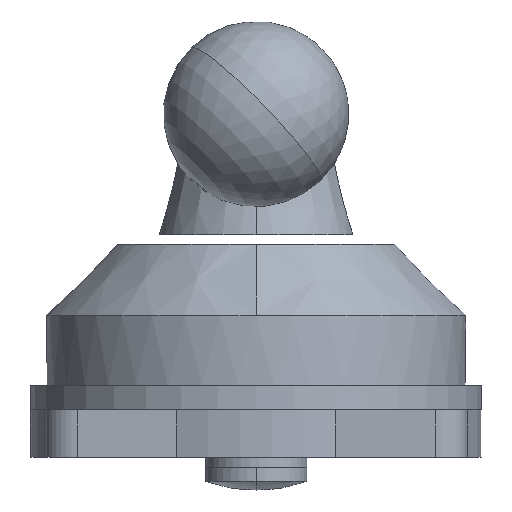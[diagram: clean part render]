
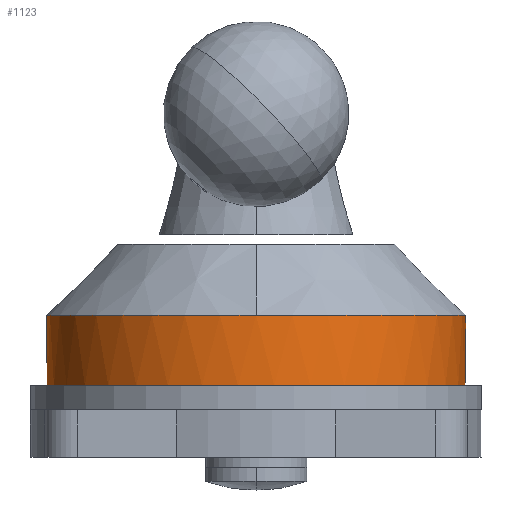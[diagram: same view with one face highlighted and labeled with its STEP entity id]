
A CAD part, front view. The second image highlights one B-rep face of the part: STEP entity #1123.
In plain terms, the highlighted cylindrical face has radius 41.25 mm (diameter 82.499 mm), a partial arc.
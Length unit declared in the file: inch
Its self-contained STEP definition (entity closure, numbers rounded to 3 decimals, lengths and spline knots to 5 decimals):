
#34 = CARTESIAN_POINT ( 'NONE',  ( 0., 0., 0.75 ) ) ;
#206 = VERTEX_POINT ( 'NONE', #15136 ) ;
#325 = EDGE_CURVE ( 'NONE', #16029, #10192, #13182, .T. ) ;
#549 = DIRECTION ( 'NONE',  ( 0., 0., -1. ) ) ;
#572 = LINE ( 'NONE', #1554, #4365 ) ;
#815 = CARTESIAN_POINT ( 'NONE',  ( 0.34484, 1.587, 0.70714 ) ) ;
#828 = CARTESIAN_POINT ( 'NONE',  ( -0.37719, 1.57961, 0.65963 ) ) ;
#1028 = CARTESIAN_POINT ( 'NONE',  ( 0., 0., 0. ) ) ;
#1123 = ADVANCED_FACE ( 'NONE', ( #7621 ), #8095, .T. ) ;
#1313 = DIRECTION ( 'NONE',  ( 0., 1., 0. ) ) ;
#1485 = CARTESIAN_POINT ( 'NONE',  ( -0.4375, 1.56396, 0.4375 ) ) ;
#1554 = CARTESIAN_POINT ( 'NONE',  ( 0.4375, 1.56396, 0. ) ) ;
#2026 = EDGE_CURVE ( 'NONE', #206, #3589, #572, .T. ) ;
#2127 = CARTESIAN_POINT ( 'NONE',  ( 0.31645, 1.5929, 0.73994 ) ) ;
#2133 = CARTESIAN_POINT ( 'NONE',  ( 0., 0., 0.203 ) ) ;
#2138 = CARTESIAN_POINT ( 'NONE',  ( -0.39746, 1.57462, 0.62091 ) ) ;
#2542 = DIRECTION ( 'NONE',  ( 0., 1., 0. ) ) ;
#3295 = CARTESIAN_POINT ( 'NONE',  ( 0.4375, 1.56396, 0.46692 ) ) ;
#3411 = DIRECTION ( 'NONE',  ( 0., 1., 0. ) ) ;
#3416 = CARTESIAN_POINT ( 'NONE',  ( -0.42288, 1.56799, 0.55336 ) ) ;
#3589 = VERTEX_POINT ( 'NONE', #7456 ) ;
#3944 = ORIENTED_EDGE ( 'NONE', *, *, #13764, .T. ) ;
#4282 = CIRCLE ( 'NONE', #10661, 1.624 ) ;
#4337 = DIRECTION ( 'NONE',  ( 0., 0., -1. ) ) ;
#4365 = VECTOR ( 'NONE', #12763, 39.37008 ) ;
#4627 = CARTESIAN_POINT ( 'NONE',  ( 0.42595, 1.56715, 0.53842 ) ) ;
#4696 = CARTESIAN_POINT ( 'NONE',  ( -0.43381, 1.56499, 0.49604 ) ) ;
#4853 = CARTESIAN_POINT ( 'NONE',  ( 0., 0., 0.75 ) ) ;
#5647 = EDGE_CURVE ( 'NONE', #13543, #8755, #10832, .T. ) ;
#5853 = CARTESIAN_POINT ( 'NONE',  ( -0.32691, 1.5909, 0.72969 ) ) ;
#5890 = CARTESIAN_POINT ( 'NONE',  ( 0.41377, 1.57041, 0.58038 ) ) ;
#5965 = CARTESIAN_POINT ( 'NONE',  ( -0.4375, 1.56396, 0.4522 ) ) ;
#6529 = EDGE_CURVE ( 'NONE', #3589, #7124, #12592, .T. ) ;
#6811 = ORIENTED_EDGE ( 'NONE', *, *, #7599, .F. ) ;
#6944 = DIRECTION ( 'NONE',  ( 0., 0., -1. ) ) ;
#7124 = VERTEX_POINT ( 'NONE', #9726 ) ;
#7158 = CARTESIAN_POINT ( 'NONE',  ( 0.39183, 1.57606, 0.63427 ) ) ;
#7456 = CARTESIAN_POINT ( 'NONE',  ( 0.4375, 1.56396, 0.4375 ) ) ;
#7599 = EDGE_CURVE ( 'NONE', #206, #8755, #8696, .T. ) ;
#7604 = VECTOR ( 'NONE', #6944, 39.37008 ) ;
#7621 = FACE_OUTER_BOUND ( 'NONE', #10806, .T. ) ;
#8095 = CYLINDRICAL_SURFACE ( 'NONE', #10602, 1.624 ) ;
#8367 = CARTESIAN_POINT ( 'NONE',  ( 0.35365, 1.58505, 0.69546 ) ) ;
#8381 = CARTESIAN_POINT ( 'NONE',  ( -0.36965, 1.58139, 0.67196 ) ) ;
#8696 = CIRCLE ( 'NONE', #9920, 1.624 ) ;
#8755 = VERTEX_POINT ( 'NONE', #11334 ) ;
#8822 = DIRECTION ( 'NONE',  ( 0., 0., -1. ) ) ;
#9533 = CARTESIAN_POINT ( 'NONE',  ( 0.4375, 1.56396, 0.4375 ) ) ;
#9590 = CARTESIAN_POINT ( 'NONE',  ( 0.32624, 1.59092, 0.72936 ) ) ;
#9603 = CARTESIAN_POINT ( 'NONE',  ( -0.39113, 1.57621, 0.63407 ) ) ;
#9726 = CARTESIAN_POINT ( 'NONE',  ( 0.30619, 1.59487, 0.75 ) ) ;
#9807 = AXIS2_PLACEMENT_3D ( 'NONE', #4853, #549, #14114 ) ;
#9920 = AXIS2_PLACEMENT_3D ( 'NONE', #2133, #10845, #3411 ) ;
#10192 = VERTEX_POINT ( 'NONE', #10816 ) ;
#10602 = AXIS2_PLACEMENT_3D ( 'NONE', #1028, #4337, #2542 ) ;
#10661 = AXIS2_PLACEMENT_3D ( 'NONE', #34, #8822, #1313 ) ;
#10806 = EDGE_LOOP ( 'NONE', ( #12499, #6811, #11489, #15078, #14669, #13598, #3944 ) ) ;
#10816 = CARTESIAN_POINT ( 'NONE',  ( -0.30619, 1.59487, 0.75 ) ) ;
#10832 = LINE ( 'NONE', #13026, #7604 ) ;
#10838 = CARTESIAN_POINT ( 'NONE',  ( 0.30619, 1.59487, 0.75 ) ) ;
#10845 = DIRECTION ( 'NONE',  ( 0., 0., -1. ) ) ;
#10850 = CARTESIAN_POINT ( 'NONE',  ( -0.41433, 1.5703, 0.58093 ) ) ;
#11129 = B_SPLINE_CURVE_WITH_KNOTS ( 'NONE', 3,
 ( #14438, #5853, #15643, #8381, #828, #9603, #2138, #10850, #3416, #12081, #4696, #13290, #5965, #14483 ),
 .UNSPECIFIED., .F., .F.,
 ( 4, 2, 2, 2, 2, 2, 4 ),
 ( 0.02606, 0.02827, 0.02937, 0.03048, 0.03268, 0.03379, 0.03489 ),
 .UNSPECIFIED. ) ;
#11334 = CARTESIAN_POINT ( 'NONE',  ( -0.4375, 1.56396, 0.203 ) ) ;
#11489 = ORIENTED_EDGE ( 'NONE', *, *, #2026, .T. ) ;
#12018 = CARTESIAN_POINT ( 'NONE',  ( 0.43456, 1.56479, 0.49582 ) ) ;
#12081 = CARTESIAN_POINT ( 'NONE',  ( -0.4316, 1.5656, 0.51059 ) ) ;
#12499 = ORIENTED_EDGE ( 'NONE', *, *, #5647, .T. ) ;
#12592 = B_SPLINE_CURVE_WITH_KNOTS ( 'NONE', 3,
 ( #9533, #3295, #12018, #4627, #13228, #5890, #14427, #7158, #15635, #8367, #815, #9590, #2127, #10838 ),
 .UNSPECIFIED., .F., .F.,
 ( 4, 2, 2, 2, 2, 2, 4 ),
 ( 0., 0.00221, 0.00331, 0.00442, 0.00663, 0.00773, 0.00884 ),
 .UNSPECIFIED. ) ;
#12763 = DIRECTION ( 'NONE',  ( 0., 0., 1. ) ) ;
#13026 = CARTESIAN_POINT ( 'NONE',  ( -0.4375, 1.56396, 0. ) ) ;
#13182 = CIRCLE ( 'NONE', #9807, 1.624 ) ;
#13228 = CARTESIAN_POINT ( 'NONE',  ( 0.42237, 1.56812, 0.55249 ) ) ;
#13290 = CARTESIAN_POINT ( 'NONE',  ( -0.43676, 1.56417, 0.46685 ) ) ;
#13459 = CARTESIAN_POINT ( 'NONE',  ( 0., -1.624, 0.75 ) ) ;
#13543 = VERTEX_POINT ( 'NONE', #1485 ) ;
#13598 = ORIENTED_EDGE ( 'NONE', *, *, #325, .T. ) ;
#13764 = EDGE_CURVE ( 'NONE', #10192, #13543, #11129, .T. ) ;
#14114 = DIRECTION ( 'NONE',  ( 0., 1., 0. ) ) ;
#14427 = CARTESIAN_POINT ( 'NONE',  ( 0.40874, 1.57173, 0.59418 ) ) ;
#14438 = CARTESIAN_POINT ( 'NONE',  ( -0.30619, 1.59487, 0.75 ) ) ;
#14483 = CARTESIAN_POINT ( 'NONE',  ( -0.4375, 1.56396, 0.4375 ) ) ;
#14669 = ORIENTED_EDGE ( 'NONE', *, *, #16078, .T. ) ;
#15078 = ORIENTED_EDGE ( 'NONE', *, *, #6529, .T. ) ;
#15136 = CARTESIAN_POINT ( 'NONE',  ( 0.4375, 1.56396, 0.203 ) ) ;
#15635 = CARTESIAN_POINT ( 'NONE',  ( 0.37806, 1.57947, 0.65958 ) ) ;
#15643 = CARTESIAN_POINT ( 'NONE',  ( -0.34534, 1.58694, 0.70764 ) ) ;
#16029 = VERTEX_POINT ( 'NONE', #13459 ) ;
#16078 = EDGE_CURVE ( 'NONE', #7124, #16029, #4282, .T. ) ;
